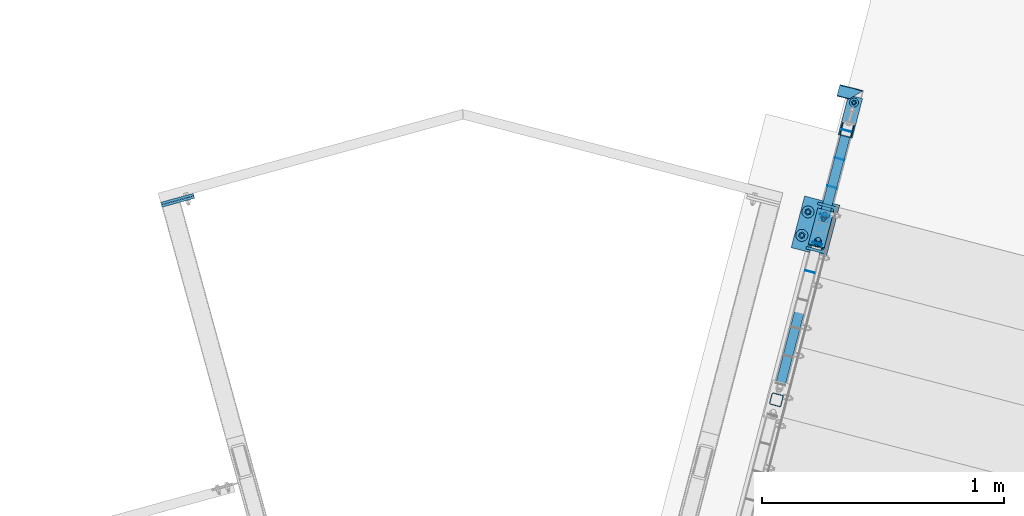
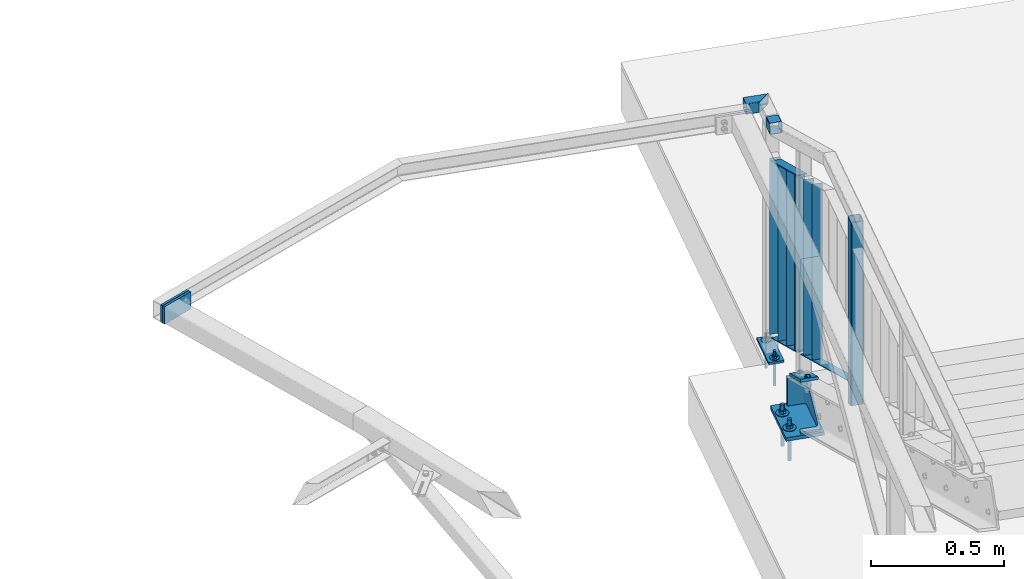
# One storey, part 92 of 169: 18 discrete accessories, 3 mechanical fasteners, 5 elements without a shape of their own.
"""IFC2X3 building model written with IfcOpenShell, lengths in millimetres."""

from ifc_helpers import new_model, si_unit, frame, frame_2d, origin_with_axes, origin_2d_with_axis, place, context, subcontext, project, spatial, polyline, circle_curve, parameter, trimmed, segment, composite_curve, rectangle, hollow_rectangle, circle, u_section, outline, extrude, boolean, clip, halfspace, source, transform, mapped, material, type_object, element, aggregate, save


model = new_model("IFC2X3")

# Units and contexts
model_context = context("Model", 3, precision=1e-05, world=origin_with_axes())
body_context = subcontext(model_context, "Body", "Model", "MODEL_VIEW")
ifc_project = project(units=[si_unit("LENGTHUNIT", "METRE", prefix="MILLI"), si_unit("AREAUNIT", "SQUARE_METRE"), si_unit("VOLUMEUNIT", "CUBIC_METRE"), si_unit("MASSUNIT", "GRAM", prefix="KILO"), si_unit("TIMEUNIT", "SECOND"), si_unit("PLANEANGLEUNIT", "RADIAN"), si_unit("SOLIDANGLEUNIT", "STERADIAN"), si_unit("THERMODYNAMICTEMPERATUREUNIT", "DEGREE_CELSIUS"), si_unit("LUMINOUSINTENSITYUNIT", "LUMEN")], contexts=[model_context])

# Site, building, storey
site_placement = place(None, origin_with_axes())
site = spatial("IfcSite", under=ifc_project, at=site_placement, Name="Undefined", CompositionType="ELEMENT")
building_placement = place(site_placement, origin_with_axes())
building = spatial("IfcBuilding", under=site, at=building_placement, Name="Undefined", CompositionType="ELEMENT")
storey_placement = place(building_placement, origin_with_axes())
storey = spatial("IfcBuildingStorey", under=building, at=storey_placement, Name="Undefined", CompositionType="ELEMENT", Elevation=0.0)

# Assembly, discrete accessories
assembly_1_placement = place(storey_placement, origin_with_axes())
assembly_1 = element("IfcElementAssembly", 1, at=assembly_1_placement, inside=storey, Name="Steel Assembly", AssemblyPlace="NOTDEFINED", PredefinedType="RIGID_FRAME")
ifc_material_1 = material(Name="STEEL/S235")
discrete_accessory_type_1 = type_object("IfcDiscreteAccessoryType", Name="BLACHA")
discrete_accessory_1_placement = place(assembly_1_placement, frame((-10106.9783694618, 21630.3455640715, 12570.418376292), z_axis=(0.0, 0.0, 1.0), x_axis=(0.967563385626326, -0.252628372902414, 0.0)))
discrete_accessory_1 = element("IfcDiscreteAccessory", 2, at=discrete_accessory_1_placement, type_object=discrete_accessory_type_1, material=ifc_material_1, Name="BLACHA", ObjectType="BL10*170", context=body_context, shape_type="SweptSolid", body=[
    extrude(outline(polyline([(-5.82076609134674e-11, -84.99999999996), (5.82076609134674e-11, 84.99999999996), (59.9999999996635, 85.0000000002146), (59.9999999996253, -85.0000000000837), (-5.82076609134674e-11, -84.99999999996)])), frame((-1.81898926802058e-12, -1.18000176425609e-16, -5.00000000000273), z_axis=(0.0, 0.0, 1.0), x_axis=(1.0, 0.0, 0.0)), (0.0, 0.0, 1.0), 10.0),
])
discrete_accessory_2_placement = place(assembly_1_placement, frame((-10164.6775383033, 21152.0635654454, 12772.1166536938), z_axis=(0.111692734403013, 0.427781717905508, 0.896954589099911), x_axis=(-0.967563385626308, 0.252628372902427, -1.72000000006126e-07)))
discrete_accessory_2 = element("IfcDiscreteAccessory", 3, at=discrete_accessory_2_placement, type_object=discrete_accessory_type_1, material=ifc_material_1, Name="BLACHA", ObjectType="BL12*170", context=body_context, shape_type="SweptSolid", body=[
    extrude(outline(polyline([(70.0000000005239, 84.9999999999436), (70.0000000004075, -84.9999999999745), (-5.82076609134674e-11, -84.99999999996), (5.82076609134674e-11, 84.99999999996), (70.0000000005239, 84.9999999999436)])), frame((-1.81898942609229e-12, -1.81898940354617e-12, -5.99999999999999), z_axis=(0.0, 0.0, 1.0), x_axis=(1.0, 0.0, 0.0)), (0.0, 0.0, 1.0), 12.0),
])

# Assembly, discrete accessory
assembly_2_placement = place(storey_placement, origin_with_axes())
assembly_2 = element("IfcElementAssembly", 4, at=assembly_2_placement, inside=storey, Name="Steel Assembly", AssemblyPlace="NOTDEFINED", PredefinedType="RIGID_FRAME")
discrete_accessory_3_placement = place(assembly_2_placement, frame((-10194.2720639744, 21276.2199307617, 12573.4183762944), z_axis=(0.0, 0.0, 1.0), x_axis=(-0.252628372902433, -0.967563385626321, 0.0)))
discrete_accessory_3 = element("IfcDiscreteAccessory", 5, at=discrete_accessory_3_placement, type_object=discrete_accessory_type_1, material=ifc_material_1, Name="BLACHA", ObjectType="BL16*150", context=body_context, shape_type="SweptSolid", body=[
    extrude(outline(polyline([(219.999999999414, -75.0000000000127), (-4.72937244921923e-11, -74.9999999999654), (1.85900717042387e-09, 74.9999771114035), (219.999999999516, 74.9999999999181), (219.999999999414, -75.0000000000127)])), frame((4.54778590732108e-13, 0.0, -8.0), z_axis=(0.0, 0.0, 1.0), x_axis=(1.0, 0.0, 0.0)), (0.0, 0.0, 1.0), 16.0),
])

assembly_3_placement = place(storey_placement, origin_with_axes())
assembly_3 = element("IfcElementAssembly", 6, at=assembly_3_placement, inside=storey, Name="Steel Assembly", AssemblyPlace="NOTDEFINED", PredefinedType="RIGID_FRAME")
discrete_accessory_4_placement = place(assembly_3_placement, frame((-12856.6278593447, 21282.7352008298, 13990.4176077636), z_axis=(0.265007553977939, -0.964246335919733, 0.0), x_axis=(-2.54700353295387e-10, 0.0, -1.0)))
discrete_accessory_4 = element("IfcDiscreteAccessory", 7, at=discrete_accessory_4_placement, type_object=discrete_accessory_type_1, material=ifc_material_1, Name="BLACHA", ObjectType="BL10*140", context=body_context, shape_type="SweptSolid", body=[
    extrude(outline(polyline([(79.9999999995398, -70.00000000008), (-1.4915713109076e-10, -69.9999999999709), (1.4915713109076e-10, 69.9999999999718), (79.9999999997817, 69.999999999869), (79.9999999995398, -70.00000000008)])), frame((-1.81898926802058e-12, -1.18000176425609e-16, -5.00000000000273), z_axis=(0.0, 0.0, 1.0), x_axis=(1.0, 0.0, 0.0)), (0.0, 0.0, 1.0), 10.0),
])
aggregate(assembly_3, [discrete_accessory_4])

assembly_4_placement = place(storey_placement, origin_with_axes())
assembly_4 = element("IfcElementAssembly", 8, at=assembly_4_placement, inside=storey, Name="Steel Assembly", AssemblyPlace="NOTDEFINED", PredefinedType="RIGID_FRAME")
discrete_accessory_5_placement = place(assembly_4_placement, frame((-12853.7127762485, 21272.1284911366, 13990.4176077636), z_axis=(0.265007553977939, -0.964246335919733, 0.0), x_axis=(-2.54700353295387e-10, 0.0, -1.0)))
discrete_accessory_5 = element("IfcDiscreteAccessory", 9, at=discrete_accessory_5_placement, type_object=discrete_accessory_type_1, material=ifc_material_1, Name="BLACHA", ObjectType="BL10*140", context=body_context, shape_type="SweptSolid", body=[
    extrude(outline(polyline([(79.9999999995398, -70.00000000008), (-1.4915713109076e-10, -69.9999999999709), (1.4915713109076e-10, 69.9999999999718), (79.9999999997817, 69.999999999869), (79.9999999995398, -70.00000000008)])), frame((-1.81898926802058e-12, -1.18000176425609e-16, -5.00000000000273), z_axis=(0.0, 0.0, 1.0), x_axis=(1.0, 0.0, 0.0)), (0.0, 0.0, 1.0), 10.0),
])
aggregate(assembly_4, [discrete_accessory_5])

assembly_5_placement = place(storey_placement, origin_with_axes())
assembly_5 = element("IfcElementAssembly", 10, at=assembly_5_placement, inside=storey, Name="Steel Assembly", AssemblyPlace="NOTDEFINED", PredefinedType="RIGID_FRAME")
discrete_accessory_type_2 = type_object("IfcDiscreteAccessoryType", Name="PORĘCZ")
discrete_accessory_6_placement = place(assembly_5_placement, frame((-10030.3367355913, 21706.1709298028, 13640.4183763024), z_axis=(-0.252628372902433, -0.967563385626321, 0.0), x_axis=(-0.967563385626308, 0.252628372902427, -1.72000000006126e-07)))
discrete_accessory_6 = element("IfcDiscreteAccessory", 11, at=discrete_accessory_6_placement, type_object=discrete_accessory_type_2, material=ifc_material_1, Name="PORĘCZ", ObjectType="SHS50*3", context=body_context, shape_type="Clipping", body=[
    clip(extrude(hollow_rectangle(XDim=50.0, YDim=50.0, WallThickness=3.0, InnerFilletRadius=3.0, OuterFilletRadius=6.0, at=origin_2d_with_axis()), frame((99.9999999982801, 3.63798853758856e-12, 1.8189894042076e-12), z_axis=(-1.0, -3.46944695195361e-18, -1.38777878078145e-17), x_axis=(1.73472347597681e-18, -1.0, 0.0)), (0.0, 0.0, 1.0), 121.71), halfspace(frame((50.0000001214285, 0.0, 24.9999999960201), z_axis=(-0.707106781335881, -2.34577541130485e-10, 0.707106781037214), x_axis=(1.73472347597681e-18, -1.0, 0.0)), False)),
])
aggregate(assembly_5, [discrete_accessory_6])

# Discrete accessory
discrete_accessory_7_placement = place(assembly_1_placement, frame((-10093.0814589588, 21564.8190439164, 13668.4782914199), z_axis=(-0.252628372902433, -0.967563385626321, 0.0), x_axis=(-2.54700353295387e-10, 0.0, -1.0)))
discrete_accessory_7 = element("IfcDiscreteAccessory", 12, at=discrete_accessory_7_placement, type_object=discrete_accessory_type_2, material=ifc_material_1, Name="PORĘCZ", ObjectType="BL40*3", context=body_context, shape_type="Clipping", body=[
    clip(clip(extrude(outline(polyline([(981.559915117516, -19.9999999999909), (174.559915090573, -19.9999999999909), (174.559915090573, 19.9999999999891), (981.559915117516, 19.9999999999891), (981.559915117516, -19.9999999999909)])), frame((1.81898940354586e-12, -1.77635442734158e-15, -1.50000000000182), z_axis=(0.0, 0.0, 1.0), x_axis=(1.0, 0.0, 0.0)), (0.0, 0.0, 1.0), 3.0), halfspace(frame((174.559915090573, 999.999999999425, -9.82254277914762e-10), z_axis=(1.0, 0.0, 0.0), x_axis=(-2.54700353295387e-10, 0.0, -1.0)), True)), halfspace(frame((981.559915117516, 999.999999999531, 1.81898940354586e-11), z_axis=(-1.0, -3.46944695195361e-18, -1.38777878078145e-17), x_axis=(0.0, 0.0, 1.0)), True)),
])

discrete_accessory_8_placement = place(assembly_1_placement, frame((-10184.0276732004, 21216.4962250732, 13794.296837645), z_axis=(-0.252628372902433, -0.967563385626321, 0.0), x_axis=(-2.54700353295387e-10, 0.0, -1.0)))
discrete_accessory_8 = element("IfcDiscreteAccessory", 13, at=discrete_accessory_8_placement, type_object=discrete_accessory_type_2, material=ifc_material_1, Name="PORĘCZ", ObjectType="BL40*3", context=body_context, shape_type="Clipping", body=[
    clip(clip(extrude(outline(polyline([(939.532992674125, -19.9999999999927), (132.880516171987, -19.9999999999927), (132.88051617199, 19.9999999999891), (939.532992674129, 19.9999999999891), (939.532992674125, -19.9999999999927)])), frame((1.81898940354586e-12, -1.77635442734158e-15, -1.50000000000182), z_axis=(0.0, 0.0, 1.0), x_axis=(1.0, 0.0, 0.0)), (0.0, 0.0, 1.0), 3.0), halfspace(frame((132.551031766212, 999.999999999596, 0.665521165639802), z_axis=(0.89618489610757, -8.07050632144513e-16, 0.443680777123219), x_axis=(0.443680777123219, -6.25441316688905e-11, -0.89618489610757)), True)), halfspace(frame((939.862477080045, 999.999999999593, -0.665521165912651), z_axis=(-0.89618489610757, 8.07050632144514e-16, -0.443680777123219), x_axis=(-0.443680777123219, 6.25441316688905e-11, 0.89618489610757)), True)),
])

discrete_accessory_9_placement = place(assembly_1_placement, frame((-10153.7122684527, 21332.6038313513, 13734.8875645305), z_axis=(-0.252628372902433, -0.967563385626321, 0.0), x_axis=(-2.54700353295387e-10, 0.0, -1.0)))
discrete_accessory_9 = element("IfcDiscreteAccessory", 14, at=discrete_accessory_9_placement, type_object=discrete_accessory_type_2, material=ifc_material_1, Name="PORĘCZ", ObjectType="BL40*3", context=body_context, shape_type="Clipping", body=[
    clip(clip(extrude(outline(polyline([(939.532992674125, -19.9999999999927), (132.880516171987, -19.9999999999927), (132.88051617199, 19.9999999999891), (939.532992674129, 19.9999999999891), (939.532992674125, -19.9999999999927)])), frame((1.81898940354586e-12, -1.77635442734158e-15, -1.50000000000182), z_axis=(0.0, 0.0, 1.0), x_axis=(1.0, 0.0, 0.0)), (0.0, 0.0, 1.0), 3.0), halfspace(frame((939.862477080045, 999.999999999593, -0.665521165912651), z_axis=(-0.89618489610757, 8.07050632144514e-16, -0.443680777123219), x_axis=(-0.443680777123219, 6.25441316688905e-11, 0.89618489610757)), True)), halfspace(frame((132.551031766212, 999.999999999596, 0.665521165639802), z_axis=(0.89618489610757, -8.07050632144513e-16, 0.443680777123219), x_axis=(0.443680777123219, -6.25441316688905e-11, -0.89618489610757)), True)),
])

discrete_accessory_10_placement = place(assembly_1_placement, frame((-10123.3968637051, 21448.7114376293, 13675.478291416), z_axis=(-0.252628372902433, -0.967563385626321, 0.0), x_axis=(-2.54700353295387e-10, 0.0, -1.0)))
discrete_accessory_10 = element("IfcDiscreteAccessory", 15, at=discrete_accessory_10_placement, type_object=discrete_accessory_type_2, material=ifc_material_1, Name="PORĘCZ", ObjectType="BL40*3", context=body_context, shape_type="Clipping", body=[
    clip(clip(clip(extrude(outline(polyline([(939.532992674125, -19.9999999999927), (132.880516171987, -19.9999999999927), (132.88051617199, 19.9999999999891), (939.532992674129, 19.9999999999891), (939.532992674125, -19.9999999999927)])), frame((1.81898940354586e-12, -1.77635442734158e-15, -1.50000000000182), z_axis=(0.0, 0.0, 1.0), x_axis=(1.0, 0.0, 0.0)), (0.0, 0.0, 1.0), 3.0), halfspace(frame((939.862477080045, 999.999999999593, -0.665521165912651), z_axis=(-0.89618489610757, 8.07050632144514e-16, -0.443680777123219), x_axis=(-0.443680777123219, 6.25441316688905e-11, 0.89618489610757)), True)), halfspace(frame((132.551031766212, 999.999999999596, 0.665521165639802), z_axis=(0.89618489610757, -8.07050632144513e-16, 0.443680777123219), x_axis=(0.443680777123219, -6.25441316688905e-11, -0.89618489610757)), True)), halfspace(frame((988.559915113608, 999.999999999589, 3.27418092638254e-10), z_axis=(-1.0, -3.46944695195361e-18, -1.38777878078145e-17), x_axis=(0.0, 0.0, 1.0)), True)),
])

discrete_accessory_11_placement = place(assembly_1_placement, frame((-10181.6024625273, 21225.7847509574, 13658.337383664), z_axis=(0.967563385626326, -0.252628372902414, 0.0), x_axis=(0.226401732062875, 0.867115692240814, -0.443680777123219)))
discrete_accessory_11 = element("IfcDiscreteAccessory", 16, at=discrete_accessory_11_placement, type_object=discrete_accessory_type_2, material=ifc_material_1, Name="PORĘCZ", ObjectType="BL40*3", context=body_context, shape_type="Clipping", body=[
    clip(clip(extrude(rectangle(XDim=3.0, YDim=40.0, at=origin_2d_with_axis()), frame((386.638500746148, 0.0, 8.86411946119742e-15), z_axis=(-1.0, -3.46944695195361e-18, -1.38777878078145e-17), x_axis=(1.73472347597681e-18, -1.0, 0.0)), (0.0, 0.0, 1.0), 450.04), halfspace(frame((366.847727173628, 1.50000000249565, 1.68374754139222e-07), z_axis=(-0.973700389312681, -0.227832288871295, -6.09027876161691e-11), x_axis=(0.0, 0.0, 1.0)), True)), halfspace(frame((-49.4571865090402, 11.0920194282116, 1000.00000000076), z_axis=(0.896184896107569, 0.443680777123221, 5.60551815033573e-11), x_axis=(-0.443680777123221, 0.896184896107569, -2.77505023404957e-11)), True)),
])

discrete_accessory_12_placement = place(assembly_1_placement, frame((-10197.9142202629, 21163.3109302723, 12880.303629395), z_axis=(0.967563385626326, -0.252628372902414, 0.0), x_axis=(0.226401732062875, 0.867115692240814, -0.443680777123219)))
discrete_accessory_12 = element("IfcDiscreteAccessory", 17, at=discrete_accessory_12_placement, type_object=discrete_accessory_type_2, material=ifc_material_1, Name="PORĘCZ", ObjectType="BL40*3", context=body_context, shape_type="CSG", body=[
    boolean("DIFFERENCE", boolean("DIFFERENCE", extrude(rectangle(XDim=3.0, YDim=40.0, at=origin_2d_with_axis()), frame((449.086363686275, -7.30088691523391e-12, 1.35321522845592e-14), z_axis=(-1.0, -3.46944695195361e-18, -1.38777878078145e-17), x_axis=(1.73472347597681e-18, -1.0, 0.0)), (0.0, 0.0, 1.0), 449.09), extrude(rectangle(XDim=51.0, YDim=51.0, at=origin_2d_with_axis()), frame((-62.1153087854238, 125.465885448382, -3.44399542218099e-09), z_axis=(0.44368077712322, -0.89618489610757, 2.77484007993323e-11), x_axis=(0.896184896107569, 0.443680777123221, 5.60551815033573e-11)), (0.0, 0.0, 1.0), 280.0)), halfspace(frame((439.597534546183, -1.50000000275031, -1.85536919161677e-10), z_axis=(0.973700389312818, 0.22783228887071, 6.08992453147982e-11), x_axis=(0.0, 0.0, 1.0)), False)),
])

discrete_accessory_13_placement = place(assembly_1_placement, frame((-10101.8733186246, 21531.146335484, 13640.4183763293), z_axis=(-0.967563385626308, 0.252628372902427, -1.72000000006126e-07), x_axis=(0.252628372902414, 0.967563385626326, 0.0)))
discrete_accessory_13 = element("IfcDiscreteAccessory", 18, at=discrete_accessory_13_placement, type_object=discrete_accessory_type_2, material=ifc_material_1, Name="PORĘCZ", ObjectType="SHS50*3", context=body_context, shape_type="Clipping", body=[
    clip(clip(extrude(hollow_rectangle(XDim=50.0, YDim=50.0, WallThickness=3.0, InnerFilletRadius=3.0, OuterFilletRadius=6.0, at=origin_2d_with_axis()), frame((64.6918607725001, 0.0, 0.0), z_axis=(-1.0, -3.46944695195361e-18, -1.38777878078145e-17), x_axis=(1.73472347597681e-18, -1.0, 0.0)), (0.0, 0.0, 1.0), 51.21), halfspace(frame((64.6918607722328, 0.0, 999.999999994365), z_axis=(-1.0, -3.46944695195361e-18, -1.38777878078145e-17), x_axis=(1.73472347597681e-18, -1.0, 0.0)), True)), halfspace(frame((7.62975103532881, 25.000000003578, -2.75325874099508e-07), z_axis=(0.973700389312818, 0.22783228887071, 6.08992453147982e-11), x_axis=(-2.54700353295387e-10, 0.0, -1.0)), True)),
])

discrete_accessory_14_placement = place(assembly_1_placement, frame((-10245.0290228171, 20982.8618486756, 13927.6347790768), z_axis=(-0.252628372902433, -0.967563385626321, 0.0), x_axis=(-2.54700353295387e-10, 0.0, -1.0)))
discrete_accessory_14 = element("IfcDiscreteAccessory", 19, at=discrete_accessory_14_placement, type_object=discrete_accessory_type_2, material=ifc_material_1, Name="PORĘCZ", ObjectType="BL40*3", context=body_context, shape_type="Clipping", body=[
    clip(clip(clip(extrude(outline(polyline([(953.326238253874, -19.9999999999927), (146.673761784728, -19.9999999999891), (146.67376178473, 19.9999999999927), (953.326238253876, 19.9999999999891), (953.326238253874, -19.9999999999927)])), frame((1.81898940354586e-12, -1.77635442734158e-15, -1.50000000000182), z_axis=(0.0, 0.0, 1.0), x_axis=(1.0, 0.0, 0.0)), (0.0, 0.0, 1.0), 3.0), halfspace(frame((146.34427734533, 999.999999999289, 0.66552116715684), z_axis=(0.89618489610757, -8.07050632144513e-16, 0.443680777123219), x_axis=(0.443680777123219, -6.25441316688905e-11, -0.89618489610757)), True)), halfspace(frame((953.655722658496, 999.999999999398, -0.665521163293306), z_axis=(-0.89618489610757, 8.07050632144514e-16, -0.443680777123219), x_axis=(-0.443680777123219, 6.25441316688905e-11, 0.89618489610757)), True)), halfspace(frame((953.655722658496, 999.999999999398, -0.665521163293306), z_axis=(-0.89618489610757, 8.07050632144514e-16, -0.443680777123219), x_axis=(-0.443680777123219, 6.25441316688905e-11, 0.89618489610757)), True)),
])

discrete_accessory_15_placement = place(assembly_1_placement, frame((-10214.7136180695, 21098.9694549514, 13868.2255059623), z_axis=(-0.252628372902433, -0.967563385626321, 0.0), x_axis=(-2.54700353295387e-10, 0.0, -1.0)))
discrete_accessory_15 = element("IfcDiscreteAccessory", 20, at=discrete_accessory_15_placement, type_object=discrete_accessory_type_2, material=ifc_material_1, Name="PORĘCZ", ObjectType="BL40*3", context=body_context, shape_type="Clipping", body=[
    clip(clip(clip(extrude(outline(polyline([(953.326238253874, -19.9999999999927), (146.673761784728, -19.9999999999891), (146.67376178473, 19.9999999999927), (953.326238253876, 19.9999999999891), (953.326238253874, -19.9999999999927)])), frame((1.81898940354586e-12, -1.77635442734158e-15, -1.50000000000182), z_axis=(0.0, 0.0, 1.0), x_axis=(1.0, 0.0, 0.0)), (0.0, 0.0, 1.0), 3.0), halfspace(frame((146.34427734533, 999.999999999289, 0.66552116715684), z_axis=(0.89618489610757, -8.07050632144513e-16, 0.443680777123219), x_axis=(0.443680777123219, -6.25441316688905e-11, -0.89618489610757)), True)), halfspace(frame((953.655722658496, 999.999999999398, -0.665521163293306), z_axis=(-0.89618489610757, 8.07050632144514e-16, -0.443680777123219), x_axis=(-0.443680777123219, 6.25441316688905e-11, 0.89618489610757)), True)), halfspace(frame((953.655722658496, 999.999999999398, -0.665521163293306), z_axis=(-0.89618489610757, 8.07050632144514e-16, -0.443680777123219), x_axis=(-0.443680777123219, 6.25441316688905e-11, 0.89618489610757)), True)),
])

discrete_accessory_16_placement = place(assembly_1_placement, frame((-10383.1321594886, 20453.9286297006, 13243.2762906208), z_axis=(0.967563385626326, -0.252628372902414, 0.0), x_axis=(0.226401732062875, 0.867115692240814, -0.443680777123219)))
discrete_accessory_16 = element("IfcDiscreteAccessory", 21, at=discrete_accessory_16_placement, type_object=discrete_accessory_type_2, material=ifc_material_1, Name="PORĘCZ", ObjectType="BL40*3", context=body_context, shape_type="CSG", body=[
    boolean("DIFFERENCE", boolean("DIFFERENCE", boolean("DIFFERENCE", boolean("DIFFERENCE", extrude(rectangle(XDim=3.0, YDim=40.0, at=origin_2d_with_axis()), frame((808.457163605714, -3.63797880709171e-12, 8.88739387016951e-15), z_axis=(-1.0, -3.46944695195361e-18, -1.38777878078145e-17), x_axis=(1.73472347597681e-18, -1.0, 0.0)), (0.0, 0.0, 1.0), 798.63), extrude(rectangle(XDim=51.0, YDim=51.0, at=origin_2d_with_axis()), frame((-62.1153087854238, 125.465885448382, -3.44399542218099e-09), z_axis=(0.44368077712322, -0.89618489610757, 2.77484007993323e-11), x_axis=(0.896184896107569, 0.443680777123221, 5.60551815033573e-11)), (0.0, 0.0, 1.0), 280.0)), extrude(rectangle(XDim=51.0, YDim=51.0, at=origin_2d_with_axis()), frame((761.656317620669, 114.373866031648, 4.59358767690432e-08), z_axis=(0.44368077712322, -0.89618489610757, 2.77484007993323e-11), x_axis=(0.896184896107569, 0.443680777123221, 5.60551815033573e-11)), (0.0, 0.0, 1.0), 280.0)), halfspace(frame((795.87559720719, -11.0920194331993, 999.999999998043), z_axis=(-0.896184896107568, -0.443680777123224, -5.60462156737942e-11), x_axis=(0.44368077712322, -0.89618489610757, 2.77484007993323e-11)), True)), halfspace(frame((22.4046223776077, 11.0920194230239, 1000.00000000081), z_axis=(0.896184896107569, 0.443680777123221, 5.60551815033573e-11), x_axis=(-0.443680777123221, 0.896184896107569, -2.77505023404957e-11)), True)),
])

discrete_accessory_type_3 = type_object("IfcDiscreteAccessoryType", Name="STANCHION")
discrete_accessory_17_placement = place(assembly_1_placement, frame((-10383.1321594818, 20453.9286297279, 13116.2762906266), z_axis=(0.0, 0.0, 1.0), x_axis=(-0.967563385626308, 0.252628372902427, -1.72000000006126e-07)))
discrete_accessory_17 = element("IfcDiscreteAccessory", 22, at=discrete_accessory_17_placement, type_object=discrete_accessory_type_3, material=ifc_material_1, Name="STANCHION", ObjectType="SHS50*3", context=body_context, shape_type="Clipping", body=[
    clip(clip(extrude(hollow_rectangle(XDim=50.0, YDim=50.0, WallThickness=3.0, InnerFilletRadius=3.0, OuterFilletRadius=6.0, at=origin_2d_with_axis()), frame((0.0, 0.0, 874.141317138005), z_axis=(-2.54700353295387e-10, 0.0, -1.0), x_axis=(0.0, 1.0, 0.0)), (0.0, 0.0, 1.0), 851.45), halfspace(frame((1000.00000000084, 1.21617631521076e-08, 874.141317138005), z_axis=(-2.54700353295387e-10, 0.0, -1.0), x_axis=(0.0, 1.0, 0.0)), True)), halfspace(frame((-24.9999999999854, -7.27595761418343e-12, 22.6918852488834), z_axis=(-8.96961418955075e-10, -0.442122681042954, 0.896954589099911), x_axis=(-4.02729710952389e-10, 0.896954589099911, 0.442122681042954)), True)),
])

# Mechanical fastener
ifc_material_2 = material(Name="Undefined")
discrete_accessory_type_4 = type_object("IfcDiscreteAccessoryType", Name="Bolt assembly")
shared_shape_1 = source(origin_with_axes(), body_context, "Body", "SweptSolid", [
    extrude(outline(composite_curve([segment(polyline([(-7.5, 8.5), (7.5, 8.5)]), True, "CONTINUOUS"), segment(trimmed(circle_curve(frame_2d((7.5, 0.0), x_axis=(0.0, 1.0)), 8.5), [parameter(0.0)], [parameter(3.14159265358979)], False, "PARAMETER"), True, "CONTINUOUS"), segment(polyline([(7.5, -8.5), (-7.5, -8.5)]), True, "CONTINUOUS"), segment(trimmed(circle_curve(frame_2d((-7.5, 0.0), x_axis=(0.0, -1.0)), 8.5), [parameter(0.0)], [parameter(3.14159265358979)], False, "PARAMETER"), True, "DISCONTINUOUS")], self_intersect=False)), frame((0.0, -10.0, 0.0), z_axis=(0.0, 1.0, 0.0), x_axis=(1.0, 0.0, 0.0)), (0.0, 0.0, 1.0), 10.1),
    extrude(outline(polyline([(5.80237031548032, 0.0), (2.90118515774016, 5.02500009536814), (-2.90118515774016, 5.02500009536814), (-5.80237031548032, 0.0), (-2.90118515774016, -5.02500009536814), (2.90118515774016, -5.02500009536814), (5.80237031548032, 0.0)])), frame((0.0, -126.0, 0.0), z_axis=(0.0, 1.0, 0.0), x_axis=(1.0, 0.0, 0.0)), (0.0, 0.0, 1.0), 116.0),
    extrude(circle(Radius=6.0, at=origin_2d_with_axis()), frame((0.0, -10.0, 0.0), z_axis=(0.0, 1.0, 0.0), x_axis=(1.0, 0.0, 0.0)), (0.0, 0.0, 1.0), 44.0),
    extrude(circle(Radius=18.5, at=origin_2d_with_axis()), frame((0.0, 0.0, 0.0), z_axis=(0.0, 1.0, 0.0), x_axis=(1.0, 0.0, 0.0)), (0.0, 0.0, 1.0), 3.0),
    extrude(outline(polyline([(10.96965511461, 0.0), (5.484827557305, 9.50000000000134), (-5.484827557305, 9.50000000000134), (-10.96965511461, 0.0), (-5.484827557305, -9.50000000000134), (5.484827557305, -9.50000000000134), (10.96965511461, 0.0)])), frame((0.0, 2.99999999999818, 0.0), z_axis=(0.0, 1.0, 0.0), x_axis=(1.0, 0.0, 0.0)), (0.0, 0.0, 1.0), 10.0),
])
mechanical_fastener_1_placement = place(assembly_1_placement, frame((-10053.7623832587, 21616.4510035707, 12575.418376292), z_axis=(0.252628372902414, 0.967563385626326, 0.0), x_axis=(-0.967563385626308, 0.252628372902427, -1.72000000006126e-07)))
mechanical_fastener_1 = element("IfcMechanicalFastener", 23, at=mechanical_fastener_1_placement, type_object=discrete_accessory_type_4, material=ifc_material_2, Name="Bolt assembly", NominalDiameter=12.0, NominalLength=44.0, context=body_context, shape_type="MappedRepresentation", body=[
    mapped(shared_shape_1, transform((24.9999999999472, 0.0, -60.0000000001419))),
    mapped(shared_shape_1, transform((24.9999999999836, -3.54702933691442e-11, 60.0000000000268))),
])

shared_shape_2 = source(origin_with_axes(), body_context, "Body", "SweptSolid", [
    extrude(outline(composite_curve([segment(polyline([(7.5, 7.5), (7.5, -7.5)]), True, "CONTINUOUS"), segment(trimmed(circle_curve(frame_2d((0.0, -7.5), x_axis=(1.0, 0.0)), 7.5), [parameter(0.0)], [parameter(3.14159265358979)], False, "PARAMETER"), True, "CONTINUOUS"), segment(polyline([(-7.5, -7.5), (-7.5, 7.5)]), True, "CONTINUOUS"), segment(trimmed(circle_curve(frame_2d((0.0, 7.5), x_axis=(-1.0, 0.0)), 7.5), [parameter(0.0)], [parameter(3.14159265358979)], False, "PARAMETER"), True, "DISCONTINUOUS")], self_intersect=False)), frame((0.0, 0.900000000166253, 0.0), z_axis=(0.0, 1.0, 0.0), x_axis=(1.0, 0.0, 0.0)), (0.0, 0.0, 1.0), 11.1),
    extrude(outline(composite_curve([segment(polyline([(-7.5, 7.5), (7.5, 7.5)]), True, "CONTINUOUS"), segment(trimmed(circle_curve(frame_2d((7.5, 0.0), x_axis=(0.0, 1.0)), 7.5), [parameter(0.0)], [parameter(3.14159265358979)], False, "PARAMETER"), True, "CONTINUOUS"), segment(polyline([(7.5, -7.5), (-7.5, -7.5)]), True, "CONTINUOUS"), segment(trimmed(circle_curve(frame_2d((-7.5, 0.0), x_axis=(0.0, -1.0)), 7.5), [parameter(0.0)], [parameter(3.14159265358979)], False, "PARAMETER"), True, "DISCONTINUOUS")], self_intersect=False)), frame((0.0, -11.9000000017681, 0.0), z_axis=(0.0, 1.0, 0.0), x_axis=(1.0, 0.0, 0.0)), (0.0, 0.0, 1.0), 12.0),
    extrude(outline(polyline([(10.39230484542, 0.0), (5.19615242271, 9.00000000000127), (-5.19615242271, 9.00000000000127), (-10.39230484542, 0.0), (-5.19615242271, -9.00000000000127), (5.19615242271, -9.00000000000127), (10.39230484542, 0.0)])), frame((0.0, -22.5000000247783, 0.0), z_axis=(0.0, 1.0, 0.0), x_axis=(1.0, 0.0, 0.0)), (0.0, 0.0, 1.0), 7.5),
    extrude(circle(Radius=6.0, at=origin_2d_with_axis()), frame((0.0, -15.0000000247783, 0.0), z_axis=(0.0, 1.0, 0.0), x_axis=(1.0, 0.0, 0.0)), (0.0, 0.0, 1.0), 45.0),
    extrude(circle(Radius=12.0, at=origin_2d_with_axis()), frame((0.0, -15.0000000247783, 0.0), z_axis=(0.0, 1.0, 0.0), x_axis=(1.0, 0.0, 0.0)), (0.0, 0.0, 1.0), 3.0),
    extrude(circle(Radius=12.0, at=origin_2d_with_axis()), frame((0.0, 12.000000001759, 0.0), z_axis=(0.0, 1.0, 0.0), x_axis=(1.0, 0.0, 0.0)), (0.0, 0.0, 1.0), 3.0),
    extrude(outline(polyline([(10.96965511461, 0.0), (5.484827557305, 9.50000000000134), (-5.484827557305, 9.50000000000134), (-10.96965511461, 0.0), (-5.484827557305, -9.50000000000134), (5.484827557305, -9.50000000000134), (10.96965511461, 0.0)])), frame((0.0, 14.9999935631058, 0.0), z_axis=(0.0, 1.0, 0.0), x_axis=(1.0, 0.0, 0.0)), (0.0, 0.0, 1.0), 10.0),
])
mechanical_fastener_2_placement = place(assembly_1_placement, frame((-10223.4014978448, 21164.6545775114, 12766.7349261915), z_axis=(0.226596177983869, 0.867860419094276, -0.442122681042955), x_axis=(0.967563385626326, -0.252628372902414, 0.0)))
mechanical_fastener_2 = element("IfcMechanicalFastener", 24, at=mechanical_fastener_2_placement, type_object=discrete_accessory_type_4, material=ifc_material_2, Name="Bolt assembly", NominalDiameter=12.0, NominalLength=45.0, context=body_context, shape_type="MappedRepresentation", body=[
    mapped(shared_shape_2, transform((24.9999999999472, 0.0, -60.0000000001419))),
    mapped(shared_shape_2, transform((24.9999999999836, -3.54702933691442e-11, 60.0000000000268))),
])

aggregate(assembly_1, [mechanical_fastener_1, discrete_accessory_1, discrete_accessory_7, discrete_accessory_8, discrete_accessory_9, discrete_accessory_10, discrete_accessory_11, discrete_accessory_12, discrete_accessory_13, mechanical_fastener_2, discrete_accessory_2, discrete_accessory_14, discrete_accessory_15, discrete_accessory_16, discrete_accessory_17])

shared_shape_3 = source(origin_with_axes(), body_context, "Body", "SweptSolid", [
    extrude(outline(composite_curve([segment(polyline([(-12.5, 10.5), (12.5, 10.5)]), True, "CONTINUOUS"), segment(trimmed(circle_curve(frame_2d((12.5, 0.0), x_axis=(0.0, 1.0)), 10.5), [parameter(0.0)], [parameter(3.14159265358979)], False, "PARAMETER"), True, "CONTINUOUS"), segment(polyline([(12.5, -10.5), (-12.5, -10.5)]), True, "CONTINUOUS"), segment(trimmed(circle_curve(frame_2d((-12.5, 0.0), x_axis=(0.0, -1.0)), 10.5), [parameter(0.0)], [parameter(3.14159265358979)], False, "PARAMETER"), True, "DISCONTINUOUS")], self_intersect=False)), frame((0.0, -16.0000000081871, 0.0), z_axis=(0.0, 1.0, 0.0), x_axis=(1.0, 0.0, 0.0)), (0.0, 0.0, 1.0), 16.1),
    extrude(outline(polyline([(7.73649338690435, 0.0), (3.86824669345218, 6.69999980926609), (-3.86824669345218, 6.69999980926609), (-7.73649338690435, 0.0), (-3.86824669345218, -6.69999980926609), (3.86824669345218, -6.69999980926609), (7.73649338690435, 0.0)])), frame((0.0, -148.0, 0.0), z_axis=(0.0, 1.0, 0.0), x_axis=(1.0, 0.0, 0.0)), (0.0, 0.0, 1.0), 132.0),
    extrude(circle(Radius=8.0, at=origin_2d_with_axis()), frame((0.0, -16.0000000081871, 0.0), z_axis=(0.0, 1.0, 0.0), x_axis=(1.0, 0.0, 0.0)), (0.0, 0.0, 1.0), 58.0),
    extrude(circle(Radius=25.0, at=origin_2d_with_axis()), frame((0.0, 0.0, 0.0), z_axis=(0.0, 1.0, 0.0), x_axis=(1.0, 0.0, 0.0)), (0.0, 0.0, 1.0), 3.0),
    extrude(outline(polyline([(13.85640646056, 0.0), (6.92820323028, 12.0000000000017), (-6.92820323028, 12.0000000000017), (-13.85640646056, 0.0), (-6.92820323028, -12.0000000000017), (6.92820323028, -12.0000000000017), (13.85640646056, 0.0)])), frame((0.0, 2.99999999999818, 0.0), z_axis=(0.0, 1.0, 0.0), x_axis=(1.0, 0.0, 0.0)), (0.0, 0.0, 1.0), 13.0),
])
mechanical_fastener_3_placement = place(assembly_2_placement, frame((-10223.1349376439, 21066.7159104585, 12581.4183762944), z_axis=(0.967563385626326, -0.252628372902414, 0.0), x_axis=(0.252628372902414, 0.967563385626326, 0.0)))
mechanical_fastener_3 = element("IfcMechanicalFastener", 25, at=mechanical_fastener_3_placement, type_object=discrete_accessory_type_4, material=ifc_material_2, Name="Bolt assembly", NominalDiameter=16.0, NominalLength=58.0, context=body_context, shape_type="MappedRepresentation", body=[
    mapped(shared_shape_3, transform((50.0000000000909, 1.14596332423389e-10, -69.9999999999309))),
    mapped(shared_shape_3, transform((150.000000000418, 0.0, -70.0000000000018))),
])

# Discrete accessory
discrete_accessory_type_5 = type_object("IfcDiscreteAccessoryType", Name="BELKA")
discrete_accessory_18_placement = place(assembly_2_placement, frame((-10197.8721003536, 21163.4722490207, 12565.7133592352), z_axis=(0.0, 0.0, 1.0), x_axis=(0.252628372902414, 0.967563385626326, 0.0)))
discrete_accessory_18 = element("IfcDiscreteAccessory", 26, at=discrete_accessory_18_placement, type_object=discrete_accessory_type_5, material=ifc_material_1, Name="BELKA", ObjectType="UPE200", context=body_context, shape_type="Clipping", body=[
    clip(clip(extrude(u_section(Depth=200.0, FlangeWidth=80.0, WebThickness=7.5, FlangeThickness=11.0, FilletRadius=12.0, EdgeRadius=3.0, at=origin_2d_with_axis()), frame((0.0, 0.0, 148.62196816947), z_axis=(-2.54700353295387e-10, 0.0, -1.0), x_axis=(0.0, 1.0, 0.0)), (0.0, 0.0, 1.0), 132.92), halfspace(frame((-100.000000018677, -3.67836037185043e-08, 23.6063404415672), z_axis=(0.528146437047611, 5.11015542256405e-10, -0.849153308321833), x_axis=(1.73472347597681e-18, -1.0, 0.0)), True)), halfspace(frame((99.9999999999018, -5.54791768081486e-10, 15.7050170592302), z_axis=(0.0, 0.0, 1.0), x_axis=(1.73472347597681e-18, -1.0, 0.0)), True)),
])

aggregate(assembly_2, [mechanical_fastener_3, discrete_accessory_3, discrete_accessory_18])

save(model, "model.ifc")
